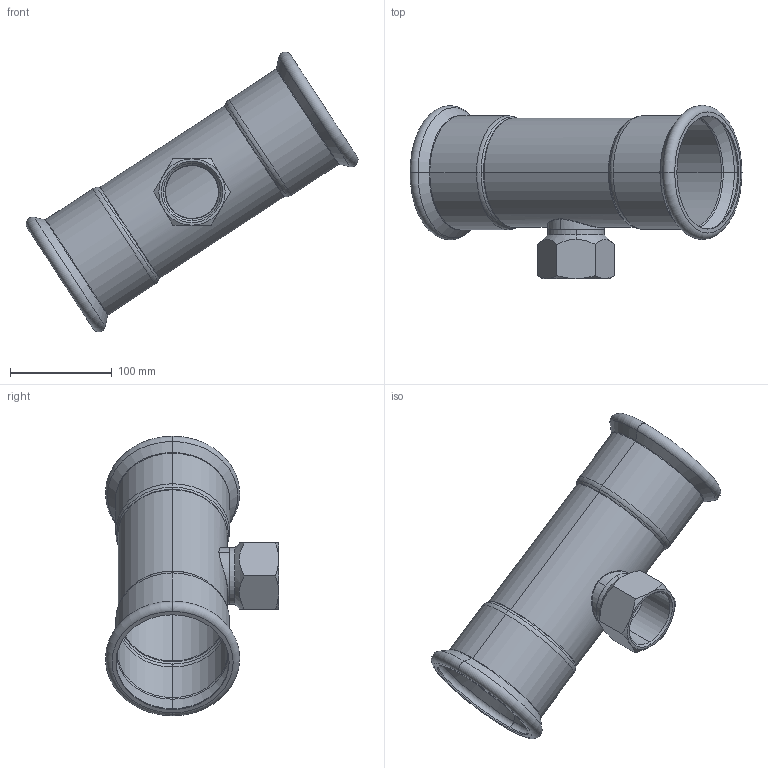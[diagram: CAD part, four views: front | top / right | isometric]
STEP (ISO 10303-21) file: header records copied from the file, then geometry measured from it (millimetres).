
FILE_DESCRIPTION (( 'STEP AP203' ), '1' );
FILE_NAME ('GDA5261.STEP', '2019-01-21T12:19:13', ( '' ), ( '' ), 'SwSTEP 2.0', 'SolidWorks 2015', '' );
FILE_SCHEMA (( 'CONFIG_CONTROL_DESIGN' ));
Length unit declared in the file: millimetre
Products named in the file (3): ITC-I-03-54℅2; T(R)-Ⅰ-108×54''; GDA5261
Assembly tree (2 placements, depth 2):
  GDA5261
    ITC-I-03-54℅2
    T(R)-Ⅰ-108×54''
Bounding box: 325.74 x 169.89 x 274.35 mm (x, y, z)
Volume: 218073.7 mm3; surface area: 248099.8 mm2
Topology: 2 solids, 2 shells, 103 faces, 218 edges, 122 vertices
Faces by surface type: torus 32, cone 28, cylinder 26, plane 13, bspline 4
Entity records: 4445 total; most frequent: CARTESIAN_POINT 1912, DIRECTION 526, ORIENTED_EDGE 436, AXIS2_PLACEMENT_3D 236, EDGE_CURVE 218, CIRCLE 132, VERTEX_POINT 122, EDGE_LOOP 112
